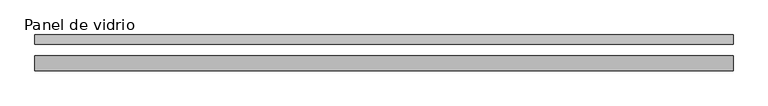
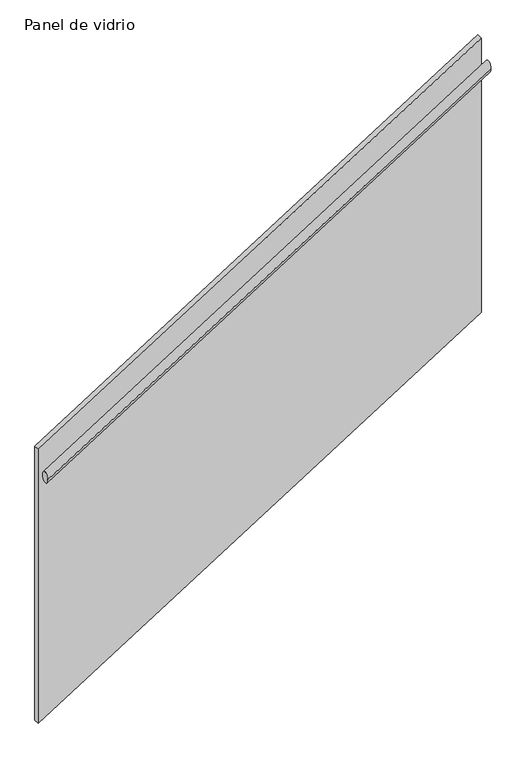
"""IFC4 building model written with IfcOpenShell, lengths in millimetres: railing geometry, Panel de vidrio."""

from ifc_helpers import new_model, si_unit, frame, origin, place, context, project, spatial, ellipse_curve, faceted_brep, source, transform, mapped, element, save
from ifc_brep_helpers import plane_surface, cylinder_surface, advanced_brep


def panel_de_vidrio_1d52b6bb(model_context):
    return source(origin(), model_context, "Body", "SolidModel", [
        faceted_brep([(35183.8589874, 30810.9165883, 14659.2512387), (35183.8589874, 30810.9165883, 13418.1096166), (35183.8589874, 30785.9165883, 13418.1096166), (35183.8589874, 30785.9165883, 14659.2512387), (37083.8589874, 30810.9165883, 15856.7302303), (37083.8589874, 30785.9165883, 15856.7302303), (37083.8589874, 30785.9165883, 14615.5886082), (37083.8589874, 30810.9165883, 14615.5886082)], [[[0, 1, 2, 3]], [[4, 5, 6, 7]], [[1, 0, 4, 7]], [[2, 1, 7, 6]], [[3, 2, 6, 5]], [[0, 3, 5, 4]]]),
        advanced_brep(
        [(35183.8589874, 30714.010184, 14564.7058824), (35183.8589874, 30754.010184, 14564.7058824), (37083.8589874, 30714.010184, 15762.1848739), (37083.8589874, 30754.010184, 15762.1848739)],
        [
            (0, 1, ellipse_curve(frame((35183.8589874, 30734.010184, 14564.7058824), z_axis=(-1.0, 0.0, 0.0), x_axis=(0.0, 0.0, -1.0)), 23.6407928, 20.0)),
            (1, 0, ellipse_curve(frame((35183.8589874, 30734.010184, 14564.7058824), z_axis=(-1.0, 0.0, 0.0), x_axis=(0.0, 0.0, -1.0)), 23.6407928, 20.0)),
            (2, 3, ellipse_curve(frame((37083.8589874, 30734.010184, 15762.1848739), z_axis=(1.0, 0.0, 0.0), x_axis=(0.0, 0.0, -1.0)), 23.6407928, 20.0)),
            (3, 2, ellipse_curve(frame((37083.8589874, 30734.010184, 15762.1848739), z_axis=(1.0, 0.0, 0.0), x_axis=(0.0, 0.0, -1.0)), 23.6407928, 20.0)),
            (0, 2),
            (3, 1),
        ],
        [
            plane_surface(frame((35183.8589874, 30734.010184, 14564.7058824), z_axis=(-1.0, 0.0, 0.0), x_axis=(0.0, 1.0, 0.0))),
            plane_surface(frame((37083.8589874, 30734.010184, 15762.1848739), z_axis=(1.0, 0.0, 0.0), x_axis=(0.0, 1.0, 0.0))),
            cylinder_surface(frame((35183.8589874, 30734.010184, 14564.7058824), z_axis=(-0.8459953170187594, 0.0, -0.5331903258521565), x_axis=(0.0, 1.0, 0.0)), 20.0),
        ],
        [
            (0, [[1, 2]]),
            (1, [[3, 4]]),
            (2, [[-1, 5, -4, 6]]),
            (2, [[-2, -6, -3, -5]]),
        ],
    ),
    ])


if __name__ == "__main__":
    model = new_model("IFC4")
    model_context = context("Model", 3, world=origin())
    ifc_project = project(units=[si_unit("LENGTHUNIT", "METRE", prefix="MILLI")], contexts=[model_context])
    site = spatial("IfcSite", under=ifc_project)
    building = spatial("IfcBuilding", under=site)
    placement = place(None, origin())
    panel_de_vidrio_shape = panel_de_vidrio_1d52b6bb(model_context)
    element("IfcRailing", 1, ObjectType="Panel de vidrio", at=placement, inside=building, context=model_context, shape_type="MappedRepresentation", body=[
        mapped(panel_de_vidrio_shape, transform((0.0, 0.0, 0.0), x_axis=(1.0, 0.0, 0.0), y_axis=(0.0, 1.0, 0.0), z_axis=(0.0, 0.0, 1.0))),
    ])
    save(model, "model.ifc")
